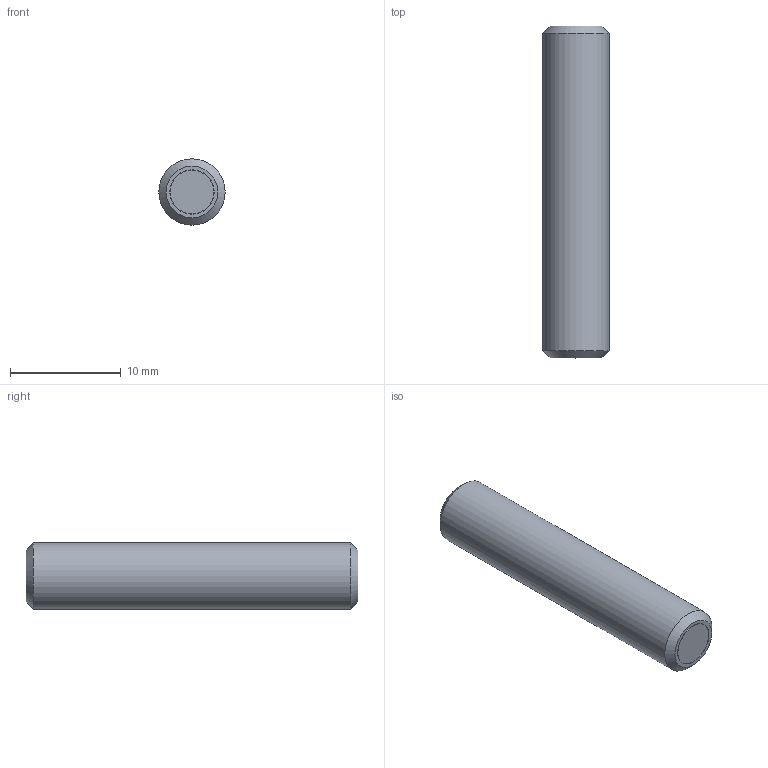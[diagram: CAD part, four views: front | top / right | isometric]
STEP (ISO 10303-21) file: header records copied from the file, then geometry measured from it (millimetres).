
FILE_DESCRIPTION(/* description */ ('STEP AP214'),/* implementation_level */ '2;1');
FILE_NAME(/* name */ 'Grub screw with retaining magnet GN 913.6-M6-30-ND',/* time_stamp */ '2023-10-03T11:26:18+02:00',/* author */ ('License CC BY-ND 4.0'),/* organization */ ('CADENAS'),/* preprocessor_version */ 'ST-DEVELOPER v19.3',/* originating_system */ 'PARTsolutions',/* authorisation */ ' ');
FILE_SCHEMA (('AUTOMOTIVE_DESIGN {1 0 10303 214 3 1 1}'));
Length unit declared in the file: millimetre
Products named in the file (1): Grub screw with retaining magnet GN 913.6-M6-30-ND
Bounding box: 6 x 30 x 6 mm (x, y, z)
Volume: 816.4 mm3; surface area: 638 mm2
Topology: 1 solids, 1 shells, 22 faces, 45 edges, 27 vertices
Faces by surface type: plane 16, cone 3, cylinder 3
Full cylindrical faces by diameter (mm): 3.96 x1, 4 x1, 6 x1
Entity records: 566 total; most frequent: DIRECTION 98, CARTESIAN_POINT 88, ORIENTED_EDGE 76, EDGE_CURVE 38, AXIS2_PLACEMENT_3D 37, FACE_BOUND 31, EDGE_LOOP 30, VERTEX_POINT 27
